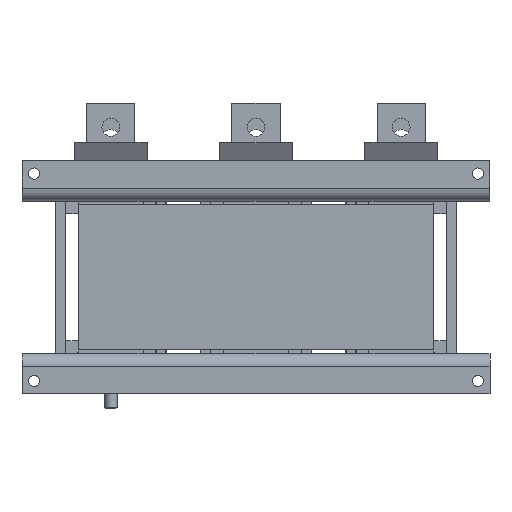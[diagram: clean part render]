
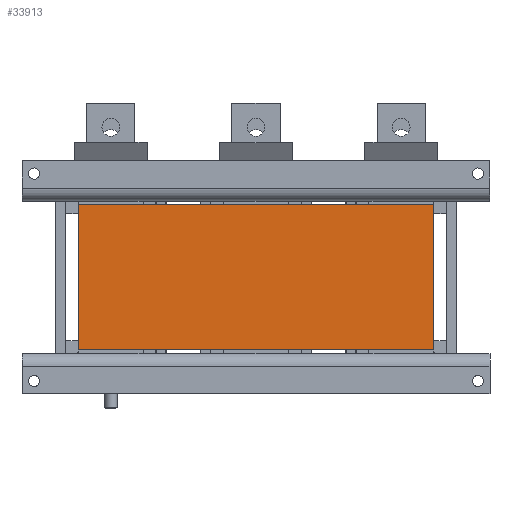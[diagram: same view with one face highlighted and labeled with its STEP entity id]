
A CAD part, front view. The second image highlights one B-rep face of the part: STEP entity #33913.
In plain terms, the highlighted planar face has unit normal (0, -1, 0).
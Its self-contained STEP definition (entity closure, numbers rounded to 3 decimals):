
#721=LINE('',#48440,#4044);
#967=LINE('',#49340,#4290);
#968=LINE('',#49341,#4291);
#969=LINE('',#49342,#4292);
#4044=VECTOR('',#39220,10.);
#4290=VECTOR('',#39958,10.);
#4291=VECTOR('',#39959,10.);
#4292=VECTOR('',#39960,10.);
#7383=PLANE('',#36090);
#9231=FACE_OUTER_BOUND('',#11228,.T.);
#11228=EDGE_LOOP('',(#23329,#23330,#23331,#23332));
#14492=VERTEX_POINT('',#48437);
#14493=VERTEX_POINT('',#48439);
#14792=VERTEX_POINT('',#49338);
#14793=VERTEX_POINT('',#49339);
#17747=EDGE_CURVE('',#14493,#14492,#721,.T.);
#18143=EDGE_CURVE('',#14792,#14793,#967,.T.);
#18144=EDGE_CURVE('',#14493,#14792,#968,.T.);
#18145=EDGE_CURVE('',#14793,#14492,#969,.T.);
#23329=ORIENTED_EDGE('',*,*,#18143,.F.);
#23330=ORIENTED_EDGE('',*,*,#18144,.F.);
#23331=ORIENTED_EDGE('',*,*,#17747,.T.);
#23332=ORIENTED_EDGE('',*,*,#18145,.F.);
#33913=ADVANCED_FACE('',(#9231),#7383,.T.);
#36090=AXIS2_PLACEMENT_3D('',#49337,#39956,#39957);
#39220=DIRECTION('',(0.,0.,1.));
#39956=DIRECTION('center_axis',(0.,-1.,0.));
#39957=DIRECTION('ref_axis',(1.,0.,0.));
#39958=DIRECTION('',(0.,0.,1.));
#39959=DIRECTION('',(-1.,0.,0.));
#39960=DIRECTION('',(1.,0.,0.));
#48437=CARTESIAN_POINT('',(110.,-110.57,45.));
#48439=CARTESIAN_POINT('',(110.,-110.57,-45.));
#48440=CARTESIAN_POINT('',(110.,-110.57,0.));
#49337=CARTESIAN_POINT('Origin',(-110.,-110.57,0.));
#49338=CARTESIAN_POINT('',(-110.,-110.57,-45.));
#49339=CARTESIAN_POINT('',(-110.,-110.57,45.));
#49340=CARTESIAN_POINT('',(-110.,-110.57,0.));
#49341=CARTESIAN_POINT('',(-110.,-110.57,-45.));
#49342=CARTESIAN_POINT('',(-110.,-110.57,45.));
